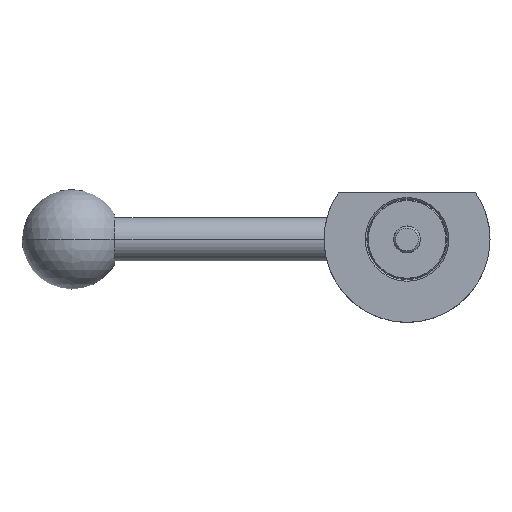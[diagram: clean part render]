
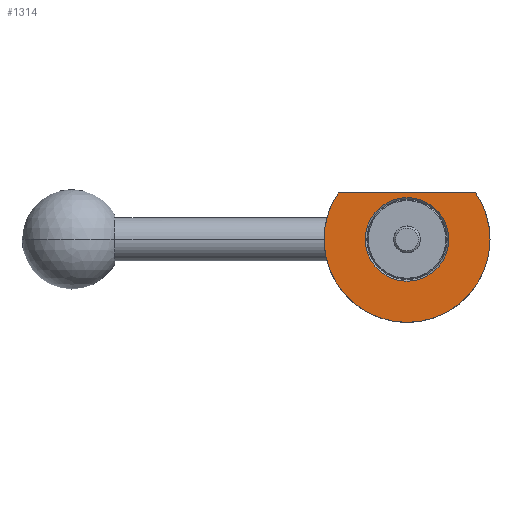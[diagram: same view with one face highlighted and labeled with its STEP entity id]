
A CAD part, front view. The second image highlights one B-rep face of the part: STEP entity #1314.
In plain terms, the highlighted planar face has unit normal (0, -1, 0).
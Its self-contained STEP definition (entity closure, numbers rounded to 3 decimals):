
#5 = CARTESIAN_POINT ( 'NONE',  ( 0., -12., 0. ) ) ;
#34 = FACE_BOUND ( 'NONE', #205, .T. ) ;
#53 = DIRECTION ( 'NONE',  ( -1., 0., 0. ) ) ;
#71 = CARTESIAN_POINT ( 'NONE',  ( -12.6, -12., 14. ) ) ;
#134 = CARTESIAN_POINT ( 'NONE',  ( -20.712, -12., 14. ) ) ;
#179 = CARTESIAN_POINT ( 'NONE',  ( -25., -12., 0. ) ) ;
#203 = ORIENTED_EDGE ( 'NONE', *, *, #1990, .F. ) ;
#205 = EDGE_LOOP ( 'NONE', ( #1096, #424 ) ) ;
#206 = DIRECTION ( 'NONE',  ( -1., 0., 0. ) ) ;
#223 = ORIENTED_EDGE ( 'NONE', *, *, #688, .T. ) ;
#241 = VERTEX_POINT ( 'NONE', #403 ) ;
#274 = VERTEX_POINT ( 'NONE', #1029 ) ;
#304 = DIRECTION ( 'NONE',  ( -1., 0., 0. ) ) ;
#403 = CARTESIAN_POINT ( 'NONE',  ( 25., -12., 0. ) ) ;
#424 = ORIENTED_EDGE ( 'NONE', *, *, #850, .T. ) ;
#481 = CIRCLE ( 'NONE', #1277, 25. ) ;
#509 = DIRECTION ( 'NONE',  ( 0., -1., 0. ) ) ;
#528 = DIRECTION ( 'NONE',  ( 1., 0., 0. ) ) ;
#536 = EDGE_CURVE ( 'NONE', #1299, #1318, #1722, .T. ) ;
#548 = AXIS2_PLACEMENT_3D ( 'NONE', #1137, #1771, #1666 ) ;
#606 = DIRECTION ( 'NONE',  ( -1., 0., 0. ) ) ;
#640 = DIRECTION ( 'NONE',  ( 0., 1., 0. ) ) ;
#688 = EDGE_CURVE ( 'NONE', #274, #1487, #869, .T. ) ;
#726 = ORIENTED_EDGE ( 'NONE', *, *, #1503, .F. ) ;
#745 = DIRECTION ( 'NONE',  ( 0., 1., 0. ) ) ;
#786 = EDGE_LOOP ( 'NONE', ( #726, #223, #203, #2014 ) ) ;
#801 = CIRCLE ( 'NONE', #1504, 25. ) ;
#839 = VERTEX_POINT ( 'NONE', #179 ) ;
#850 = EDGE_CURVE ( 'NONE', #1318, #1299, #1540, .T. ) ;
#869 = LINE ( 'NONE', #71, #1777 ) ;
#925 = AXIS2_PLACEMENT_3D ( 'NONE', #5, #640, #1105 ) ;
#988 = CARTESIAN_POINT ( 'NONE',  ( -12.6, -12., 0. ) ) ;
#1029 = CARTESIAN_POINT ( 'NONE',  ( 20.712, -12., 14. ) ) ;
#1037 = AXIS2_PLACEMENT_3D ( 'NONE', #988, #509, #528 ) ;
#1096 = ORIENTED_EDGE ( 'NONE', *, *, #536, .T. ) ;
#1105 = DIRECTION ( 'NONE',  ( -1., 0., 0. ) ) ;
#1137 = CARTESIAN_POINT ( 'NONE',  ( 0., -12., 0. ) ) ;
#1261 = FACE_OUTER_BOUND ( 'NONE', #786, .T. ) ;
#1277 = AXIS2_PLACEMENT_3D ( 'NONE', #1513, #745, #53 ) ;
#1299 = VERTEX_POINT ( 'NONE', #1903 ) ;
#1314 = ADVANCED_FACE ( 'NONE', ( #34, #1261 ), #1583, .T. ) ;
#1318 = VERTEX_POINT ( 'NONE', #1923 ) ;
#1350 = AXIS2_PLACEMENT_3D ( 'NONE', #1750, #1590, #206 ) ;
#1487 = VERTEX_POINT ( 'NONE', #134 ) ;
#1503 = EDGE_CURVE ( 'NONE', #274, #241, #801, .T. ) ;
#1504 = AXIS2_PLACEMENT_3D ( 'NONE', #1846, #1697, #304 ) ;
#1513 = CARTESIAN_POINT ( 'NONE',  ( 0., -12., 0. ) ) ;
#1540 = CIRCLE ( 'NONE', #925, 12.6 ) ;
#1583 = PLANE ( 'NONE',  #1037 ) ;
#1590 = DIRECTION ( 'NONE',  ( 0., 1., 0. ) ) ;
#1666 = DIRECTION ( 'NONE',  ( -1., 0., 0. ) ) ;
#1697 = DIRECTION ( 'NONE',  ( 0., 1., 0. ) ) ;
#1722 = CIRCLE ( 'NONE', #1350, 12.6 ) ;
#1750 = CARTESIAN_POINT ( 'NONE',  ( 0., -12., 0. ) ) ;
#1771 = DIRECTION ( 'NONE',  ( 0., 1., 0. ) ) ;
#1777 = VECTOR ( 'NONE', #606, 1000. ) ;
#1804 = CIRCLE ( 'NONE', #548, 25. ) ;
#1846 = CARTESIAN_POINT ( 'NONE',  ( 0., -12., 0. ) ) ;
#1903 = CARTESIAN_POINT ( 'NONE',  ( 12.6, -12., 0. ) ) ;
#1923 = CARTESIAN_POINT ( 'NONE',  ( -12.6, -12., 0. ) ) ;
#1935 = EDGE_CURVE ( 'NONE', #241, #839, #1804, .T. ) ;
#1990 = EDGE_CURVE ( 'NONE', #839, #1487, #481, .T. ) ;
#2014 = ORIENTED_EDGE ( 'NONE', *, *, #1935, .F. ) ;
